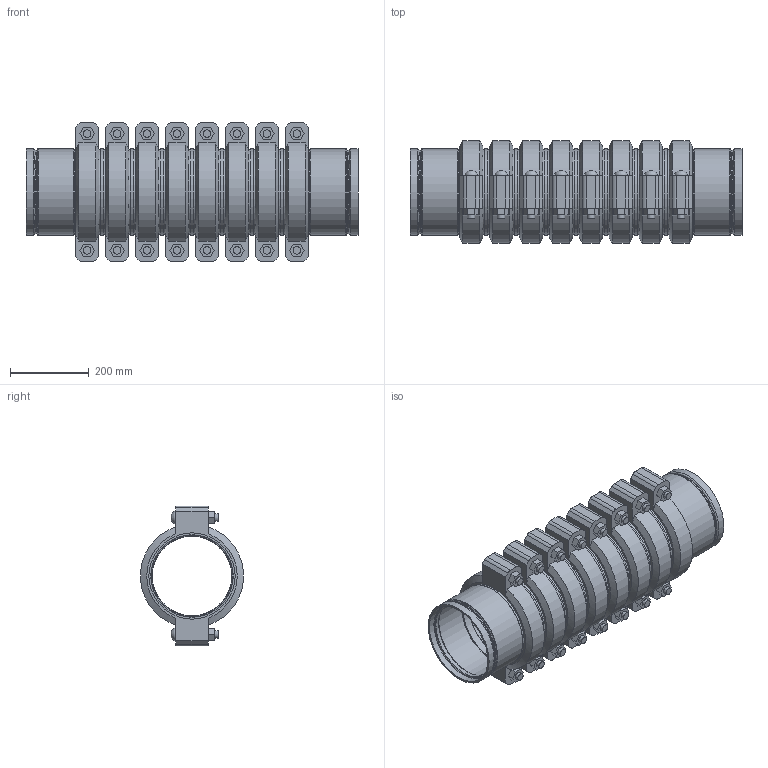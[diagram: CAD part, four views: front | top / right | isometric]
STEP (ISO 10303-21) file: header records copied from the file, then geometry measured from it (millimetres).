
FILE_DESCRIPTION(/* description */ ('VIC STRENGTHIN 100 EXPANSION JOINT 8 COUPLINGS EXPANDED STYLE E155 (ST1)','CAx-IF Rec.Pracs.---Representation and Presentation of Product Manufacturing Information (PMI)---4.0---2014-10-13'),/* implementation_level */ '2;1');
FILE_NAME(/* name */ 'C:\Users\Vjadhav\AppData\Roaming\Autodesk\ApplicationPlugins\Victaulic.Temp\A374\Victaulic_SS-StrengThin 100_Expansion Joint_Expanded_8 Couplings_Style E155 (ST1)_8 (200).stp',/* time_stamp */ '2021-07-23T19:34:46+05:00',/* author */ ('kkamble'),/* organization */ ('Victaulic'),/* preprocessor_version */ 'ST-DEVELOPER v17.2',/* originating_system */ 'Autodesk Inventor 2019',/* authorisation */ '');
FILE_SCHEMA (('AP242_MANAGED_MODEL_BASED_3D_ENGINEERING_MIM_LF { 1 0 10303 442 1 1 4 }'));
Length unit declared in the file: inch
Products named in the file (4): E155-08.0; E494G-08.0; Nipple-08.0; 075-08.0
Assembly tree (17 placements, depth 2):
  E155-08.0
    E494G-08.0  x2
    Nipple-08.0  x7
    075-08.0  x8
Bounding box: 843.79 x 261.72 x 354.84 mm (x, y, z)
Volume: 14405099.4 mm3; surface area: 2572232.1 mm2
Topology: 17 solids, 33 shells, 610 faces, 1504 edges, 1062 vertices
Faces by surface type: plane 344, cylinder 182, cone 36, torus 32, bspline 16
Full cylindrical faces by diameter (mm): 19.05 x32, 21.209 x16, 201.651 x2, 202.717 x7, 204.851 x2, 209.525 x6, 211.201 x2, 212.725 x8, 214.401 x16, 219.075 x43
Entity records: 3849 total; most frequent: DIRECTION 687, CARTESIAN_POINT 672, ORIENTED_EDGE 556, AXIS2_PLACEMENT_3D 294, EDGE_CURVE 278, VERTEX_POINT 201, CIRCLE 171, EDGE_LOOP 131
